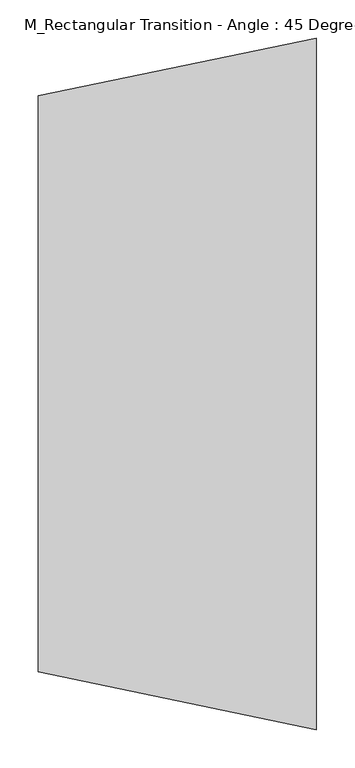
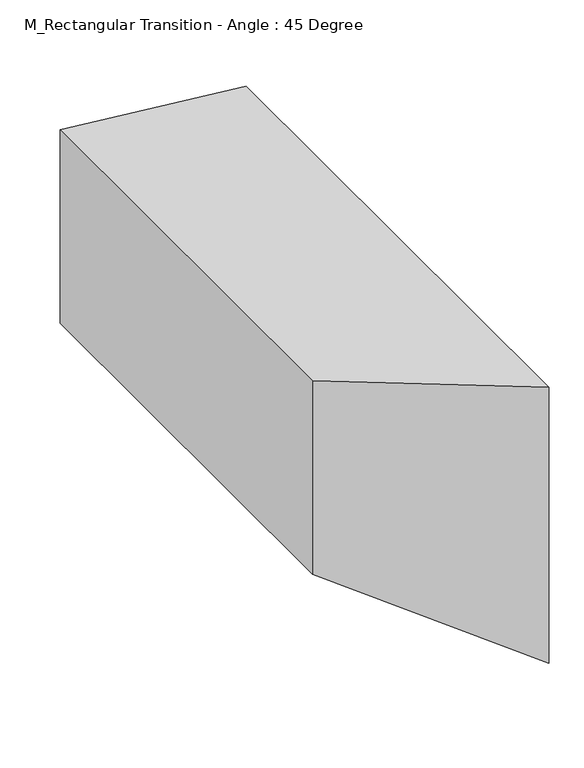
"""IFC4 building model written with IfcOpenShell, lengths in millimetres: duct fitting geometry, M_Rectangular Transition - Angle : 45 Degree."""

from ifc_helpers import new_model, si_unit, origin, place, context, project, spatial, faceted_brep, source, transform, mapped, element, save


def m_rectangular_transition_angle_45_degree_70f4cc88(model_context):
    return source(origin(), model_context, "Body", "Brep", [
        faceted_brep([(362.1320344, -450.0, 82.4), (362.1320344, -450.0, -417.6), (362.1320344, 450.0, -417.6), (362.1320344, 450.0, 82.4), (0.0, -375.0, 175.0), (0.0, 375.0, 175.0), (0.0, 375.0, -175.0), (0.0, -375.0, -175.0)], [[[0, 1, 2, 3]], [[4, 5, 6, 7]], [[4, 7, 1, 0]], [[7, 6, 2, 1]], [[6, 5, 3, 2]], [[5, 4, 0, 3]]]),
        faceted_brep([(362.1320344, -450.0, 82.4), (362.1320344, -450.0, -417.6), (362.1320344, 450.0, -417.6), (362.1320344, 450.0, 82.4), (0.0, -375.0, 175.0), (0.0, 375.0, 175.0), (0.0, 375.0, -175.0), (0.0, -375.0, -175.0)], [[[0, 1, 2, 3]], [[4, 5, 6, 7]], [[4, 7, 1, 0]], [[7, 6, 2, 1]], [[6, 5, 3, 2]], [[5, 4, 0, 3]]]),
        faceted_brep([(362.1320344, -450.0, 82.4), (362.1320344, -450.0, -417.6), (362.1320344, 450.0, -417.6), (362.1320344, 450.0, 82.4), (0.0, -375.0, 175.0), (0.0, 375.0, 175.0), (0.0, 375.0, -175.0), (0.0, -375.0, -175.0)], [[[0, 1, 2, 3]], [[4, 5, 6, 7]], [[4, 7, 1, 0]], [[7, 6, 2, 1]], [[6, 5, 3, 2]], [[5, 4, 0, 3]]]),
    ])


if __name__ == "__main__":
    model = new_model("IFC4")
    model_context = context("Model", 3, world=origin())
    ifc_project = project(units=[si_unit("LENGTHUNIT", "METRE", prefix="MILLI")], contexts=[model_context])
    site = spatial("IfcSite", under=ifc_project)
    building = spatial("IfcBuilding", under=site)
    placement = place(None, origin())
    m_rectangular_transition_angle_45_degree_shape = m_rectangular_transition_angle_45_degree_70f4cc88(model_context)
    element("IfcDuctFitting", 1, ObjectType="M_Rectangular Transition - Angle : 45 Degree", at=placement, inside=building, context=model_context, shape_type="MappedRepresentation", body=[
        mapped(m_rectangular_transition_angle_45_degree_shape, transform((0.0, 0.0, 0.0), x_axis=(1.0, 0.0, 0.0), y_axis=(0.0, 1.0, 0.0), z_axis=(0.0, 0.0, 1.0))),
    ])
    save(model, "model.ifc")
